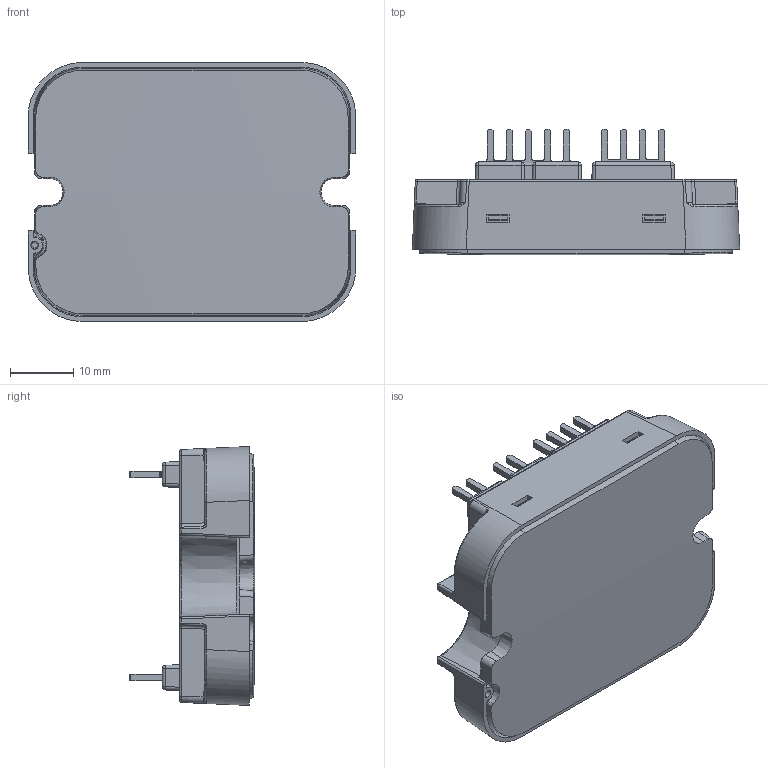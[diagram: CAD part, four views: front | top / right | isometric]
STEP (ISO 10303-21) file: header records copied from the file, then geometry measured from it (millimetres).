
FILE_DESCRIPTION (( 'STEP AP203' ), '1' );
FILE_NAME ('apm-005-010. 4sldprt.STEP', '2025-03-07T21:48:43', ( '' ), ( '' ), 'SwSTEP 2.0', 'SolidWorks 2024', '' );
FILE_SCHEMA (( 'CONFIG_CONTROL_DESIGN' ));
Length unit declared in the file: millimetre
Products named in the file (1): apm-005-010. 4sldprt
Bounding box: 51.6 x 19.73 x 40.8 mm (x, y, z)
Volume: 20185.5 mm3; surface area: 9659.8 mm2
Topology: 1 solids, 2 shells, 1098 faces, 2757 edges, 1622 vertices
Faces by surface type: plane 538, cylinder 224, bspline 169, sphere 90, cone 45, torus 32
Full cylindrical faces by diameter (mm): 5 x1
Entity records: 35191 total; most frequent: CARTESIAN_POINT 11182, ORIENTED_EDGE 5298, DIRECTION 4519, EDGE_CURVE 2649, VERTEX_POINT 1621, AXIS2_PLACEMENT_3D 1549, LINE 1421, VECTOR 1421
